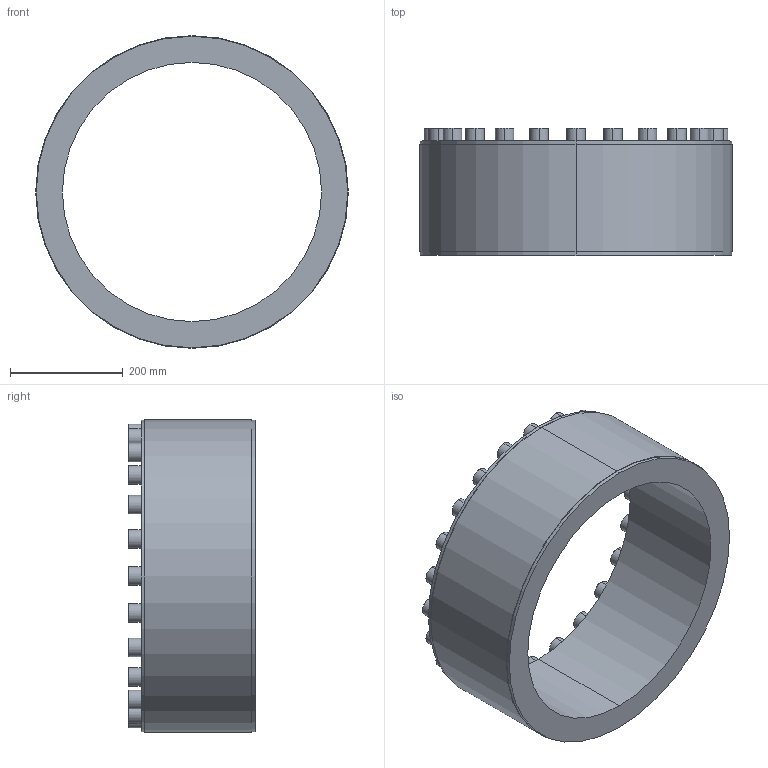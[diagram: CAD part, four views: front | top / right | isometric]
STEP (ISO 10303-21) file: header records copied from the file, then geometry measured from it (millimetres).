
FILE_DESCRIPTION (( 'STEP AP203' ), '1' );
FILE_NAME ('PL-D1 460-555.STEP', '2021-10-23T00:27:06', ( '' ), ( '' ), 'SwSTEP 2.0', 'SolidWorks 2018', '' );
FILE_SCHEMA (( 'CONFIG_CONTROL_DESIGN' ));
Length unit declared in the file: millimetre
Products named in the file (1): PL-D1 460-555
Bounding box: 555 x 225 x 555 mm (x, y, z)
Volume: 15736364.7 mm3; surface area: 868441.2 mm2
Topology: 1 solids, 1 shells, 300 faces, 696 edges, 448 vertices
Faces by surface type: plane 196, cylinder 56, torus 48
Entity records: 8565 total; most frequent: DIRECTION 1506, CARTESIAN_POINT 1445, ORIENTED_EDGE 1392, EDGE_CURVE 696, AXIS2_PLACEMENT_3D 509, VECTOR 488, LINE 488, VERTEX_POINT 448
